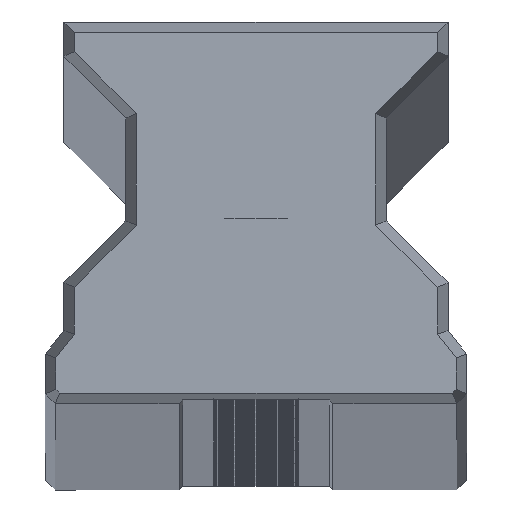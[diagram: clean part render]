
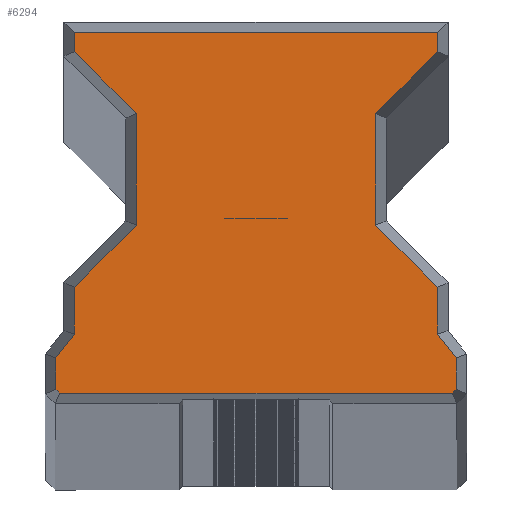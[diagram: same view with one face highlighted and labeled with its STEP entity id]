
A CAD part, top view. The second image highlights one B-rep face of the part: STEP entity #6294.
In plain terms, the highlighted planar face has unit normal (0, 0, 1).
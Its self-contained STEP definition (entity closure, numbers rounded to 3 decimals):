
#734=DIRECTION('',(1.,0.,0.));
#735=VECTOR('',#734,31.696);
#736=CARTESIAN_POINT('',(-15.848,0.85,0.));
#737=LINE('',#736,#735);
#738=DIRECTION('',(0.707,-0.707,0.));
#739=VECTOR('',#738,0.427);
#740=CARTESIAN_POINT('',(-16.15,1.152,0.));
#741=LINE('',#740,#739);
#742=DIRECTION('',(0.,-1.,0.));
#743=VECTOR('',#742,2.553);
#744=CARTESIAN_POINT('',(-16.15,3.705,0.));
#745=LINE('',#744,#743);
#746=DIRECTION('',(0.62,0.785,0.));
#747=VECTOR('',#746,2.421);
#748=CARTESIAN_POINT('',(-16.15,3.705,0.));
#749=LINE('',#748,#747);
#750=DIRECTION('',(0.,-1.,0.));
#751=VECTOR('',#750,3.788);
#752=CARTESIAN_POINT('',(-14.65,9.393,0.));
#753=LINE('',#752,#751);
#754=DIRECTION('',(-0.707,-0.707,0.));
#755=VECTOR('',#754,7.071);
#756=CARTESIAN_POINT('',(-9.65,14.393,0.));
#757=LINE('',#756,#755);
#758=DIRECTION('',(0.,-1.,0.));
#759=VECTOR('',#758,9.013);
#760=CARTESIAN_POINT('',(-9.65,23.407,0.));
#761=LINE('',#760,#759);
#762=DIRECTION('',(0.707,-0.707,0.));
#763=VECTOR('',#762,7.071);
#764=CARTESIAN_POINT('',(-14.65,28.407,0.));
#765=LINE('',#764,#763);
#766=DIRECTION('',(0.,-1.,0.));
#767=VECTOR('',#766,1.543);
#768=CARTESIAN_POINT('',(-14.65,29.95,0.));
#769=LINE('',#768,#767);
#770=DIRECTION('',(-1.,0.,0.));
#771=VECTOR('',#770,29.3);
#772=CARTESIAN_POINT('',(14.65,29.95,0.));
#773=LINE('',#772,#771);
#774=DIRECTION('',(0.,1.,0.));
#775=VECTOR('',#774,1.543);
#776=CARTESIAN_POINT('',(14.65,28.407,0.));
#777=LINE('',#776,#775);
#778=DIRECTION('',(-0.707,-0.707,0.));
#779=VECTOR('',#778,7.071);
#780=CARTESIAN_POINT('',(14.65,28.407,0.));
#781=LINE('',#780,#779);
#782=DIRECTION('',(0.,1.,0.));
#783=VECTOR('',#782,9.013);
#784=CARTESIAN_POINT('',(9.65,14.393,0.));
#785=LINE('',#784,#783);
#786=DIRECTION('',(-0.707,0.707,0.));
#787=VECTOR('',#786,7.071);
#788=CARTESIAN_POINT('',(14.65,9.393,0.));
#789=LINE('',#788,#787);
#790=DIRECTION('',(0.,1.,0.));
#791=VECTOR('',#790,3.788);
#792=CARTESIAN_POINT('',(14.65,5.605,0.));
#793=LINE('',#792,#791);
#794=DIRECTION('',(-0.62,0.785,0.));
#795=VECTOR('',#794,2.421);
#796=CARTESIAN_POINT('',(16.15,3.705,0.));
#797=LINE('',#796,#795);
#798=DIRECTION('',(0.,1.,0.));
#799=VECTOR('',#798,2.553);
#800=CARTESIAN_POINT('',(16.15,1.152,0.));
#801=LINE('',#800,#799);
#802=DIRECTION('',(0.707,0.707,0.));
#803=VECTOR('',#802,0.427);
#804=CARTESIAN_POINT('',(15.848,0.85,0.));
#805=LINE('',#804,#803);
#4582=CARTESIAN_POINT('',(-15.848,0.85,0.));
#4583=CARTESIAN_POINT('',(15.848,0.85,0.));
#4584=VERTEX_POINT('',#4582);
#4585=VERTEX_POINT('',#4583);
#4586=CARTESIAN_POINT('',(16.15,1.152,0.));
#4587=VERTEX_POINT('',#4586);
#4588=CARTESIAN_POINT('',(16.15,3.705,0.));
#4589=VERTEX_POINT('',#4588);
#4590=CARTESIAN_POINT('',(14.65,5.605,0.));
#4591=VERTEX_POINT('',#4590);
#4592=CARTESIAN_POINT('',(14.65,9.393,0.));
#4593=VERTEX_POINT('',#4592);
#4594=CARTESIAN_POINT('',(9.65,14.393,0.));
#4595=VERTEX_POINT('',#4594);
#4596=CARTESIAN_POINT('',(9.65,23.407,0.));
#4597=VERTEX_POINT('',#4596);
#4598=CARTESIAN_POINT('',(14.65,28.407,0.));
#4599=VERTEX_POINT('',#4598);
#4600=CARTESIAN_POINT('',(14.65,29.95,0.));
#4601=VERTEX_POINT('',#4600);
#4602=CARTESIAN_POINT('',(-14.65,29.95,0.));
#4603=VERTEX_POINT('',#4602);
#4604=CARTESIAN_POINT('',(-14.65,28.407,0.));
#4605=VERTEX_POINT('',#4604);
#4606=CARTESIAN_POINT('',(-9.65,23.407,0.));
#4607=VERTEX_POINT('',#4606);
#4608=CARTESIAN_POINT('',(-9.65,14.393,0.));
#4609=VERTEX_POINT('',#4608);
#4610=CARTESIAN_POINT('',(-14.65,9.393,0.));
#4611=VERTEX_POINT('',#4610);
#4612=CARTESIAN_POINT('',(-14.65,5.605,0.));
#4613=VERTEX_POINT('',#4612);
#4614=CARTESIAN_POINT('',(-16.15,3.705,0.));
#4615=VERTEX_POINT('',#4614);
#5646=CARTESIAN_POINT('',(-16.15,1.152,0.));
#5647=VERTEX_POINT('',#5646);
#6252=CARTESIAN_POINT('',(0.,0.,0.));
#6253=DIRECTION('',(0.,0.,1.));
#6254=DIRECTION('',(1.,0.,0.));
#6255=AXIS2_PLACEMENT_3D('',#6252,#6253,#6254);
#6256=PLANE('',#6255);
#6258=ORIENTED_EDGE('',*,*,#6257,.F.);
#6260=ORIENTED_EDGE('',*,*,#6259,.F.);
#6262=ORIENTED_EDGE('',*,*,#6261,.F.);
#6264=ORIENTED_EDGE('',*,*,#6263,.T.);
#6266=ORIENTED_EDGE('',*,*,#6265,.F.);
#6268=ORIENTED_EDGE('',*,*,#6267,.F.);
#6270=ORIENTED_EDGE('',*,*,#6269,.F.);
#6271=ORIENTED_EDGE('',*,*,#6242,.F.);
#6273=ORIENTED_EDGE('',*,*,#6272,.F.);
#6275=ORIENTED_EDGE('',*,*,#6274,.F.);
#6277=ORIENTED_EDGE('',*,*,#6276,.F.);
#6279=ORIENTED_EDGE('',*,*,#6278,.T.);
#6281=ORIENTED_EDGE('',*,*,#6280,.F.);
#6283=ORIENTED_EDGE('',*,*,#6282,.F.);
#6285=ORIENTED_EDGE('',*,*,#6284,.F.);
#6287=ORIENTED_EDGE('',*,*,#6286,.F.);
#6289=ORIENTED_EDGE('',*,*,#6288,.F.);
#6291=ORIENTED_EDGE('',*,*,#6290,.F.);
#6292=EDGE_LOOP('',(#6258,#6260,#6262,#6264,#6266,#6268,#6270,#6271,#6273,#6275,
#6277,#6279,#6281,#6283,#6285,#6287,#6289,#6291));
#6293=FACE_OUTER_BOUND('',#6292,.F.);
#6242=EDGE_CURVE('',#4605,#4607,#765,.T.);
#6257=EDGE_CURVE('',#4584,#4585,#737,.T.);
#6259=EDGE_CURVE('',#5647,#4584,#741,.T.);
#6261=EDGE_CURVE('',#4615,#5647,#745,.T.);
#6263=EDGE_CURVE('',#4615,#4613,#749,.T.);
#6265=EDGE_CURVE('',#4611,#4613,#753,.T.);
#6267=EDGE_CURVE('',#4609,#4611,#757,.T.);
#6269=EDGE_CURVE('',#4607,#4609,#761,.T.);
#6272=EDGE_CURVE('',#4603,#4605,#769,.T.);
#6274=EDGE_CURVE('',#4601,#4603,#773,.T.);
#6276=EDGE_CURVE('',#4599,#4601,#777,.T.);
#6278=EDGE_CURVE('',#4599,#4597,#781,.T.);
#6280=EDGE_CURVE('',#4595,#4597,#785,.T.);
#6282=EDGE_CURVE('',#4593,#4595,#789,.T.);
#6284=EDGE_CURVE('',#4591,#4593,#793,.T.);
#6286=EDGE_CURVE('',#4589,#4591,#797,.T.);
#6288=EDGE_CURVE('',#4587,#4589,#801,.T.);
#6290=EDGE_CURVE('',#4585,#4587,#805,.T.);
#6294=ADVANCED_FACE('',(#6293),#6256,.T.);
